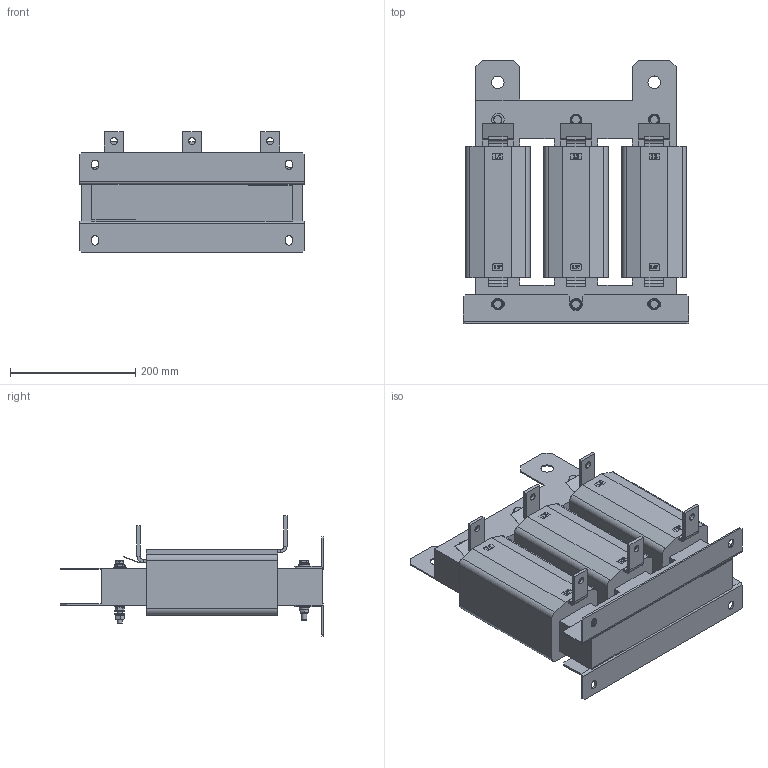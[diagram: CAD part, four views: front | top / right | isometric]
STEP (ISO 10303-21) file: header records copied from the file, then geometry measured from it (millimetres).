
FILE_DESCRIPTION(/* description */ ('raw material description'),/* implementation_level */ '2;1');
FILE_NAME(/* name */ 'C:\Users\Erika.Jenzer\Desktop\Neuer Ordner\RWK3044\RWK3044-400-99-E0XXX.stp',/* time_stamp */ '2019-11-21T14:32:55+01:00',/* author */ ('erika.jenzer'),/* organization */ ('Schaffner EMV AG'),/* preprocessor_version */ 'ST-DEVELOPER v16.5',/* originating_system */ 'Autodesk Inventor 2017',/* authorisation */ '');
FILE_SCHEMA (('AUTOMOTIVE_DESIGN { 1 0 10303 214 3 1 1 }'));
Length unit declared in the file: millimetre
Products named in the file (1): RWK3044-400-99-E0XXX
Bounding box: 360 x 420.8 x 192.8 mm (x, y, z)
Volume: 9450983.8 mm3; surface area: 596343.1 mm2
Topology: 39 solids, 50 shells, 1078 faces, 2657 edges, 1747 vertices
Faces by surface type: plane 743, cylinder 169, cone 109, bspline 50, torus 7
Full cylindrical faces by diameter (mm): 8 x19, 8.2 x6, 8.4 x14, 9.9 x5, 10.5 x3, 11 x6, 11.4 x6, 13 x1, 16 x12, 18 x5, 20 x4
Entity records: 31775 total; most frequent: CARTESIAN_POINT 6301, ORIENTED_EDGE 5010, DIRECTION 4722, EDGE_CURVE 2498, LINE 1744, VECTOR 1744, VERTEX_POINT 1706, AXIS2_PLACEMENT_3D 1489
